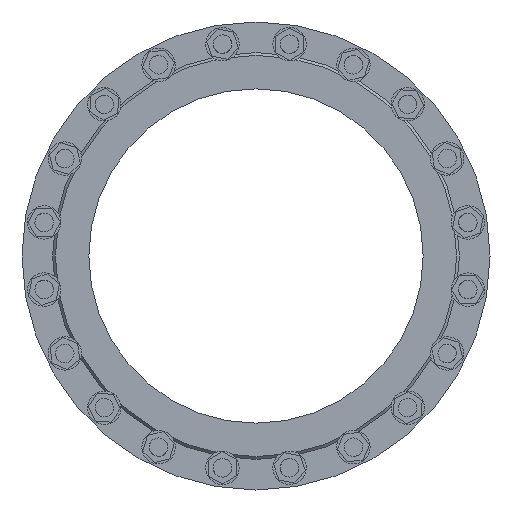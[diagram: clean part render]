
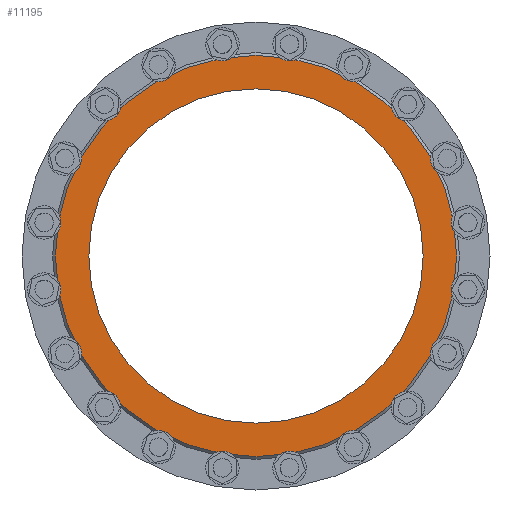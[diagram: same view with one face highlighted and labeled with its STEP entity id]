
A CAD part, left-side view. The second image highlights one B-rep face of the part: STEP entity #11195.
In plain terms, the highlighted planar face has unit normal (-1, 0, 0).
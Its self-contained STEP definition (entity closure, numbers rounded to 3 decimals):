
#1009 = DIRECTION ( 'NONE',  ( 1., 0., 0. ) ) ;
#1361 = AXIS2_PLACEMENT_3D ( 'NONE', #4026, #13915, #1514 ) ;
#1514 = DIRECTION ( 'NONE',  ( 0., 0., 1. ) ) ;
#2507 = PLANE ( 'NONE',  #11328 ) ;
#4026 = CARTESIAN_POINT ( 'NONE',  ( -20., 0., 0. ) ) ;
#5017 = CARTESIAN_POINT ( 'NONE',  ( -20., 300., 0. ) ) ;
#6757 = CARTESIAN_POINT ( 'NONE',  ( -20., 0., 360. ) ) ;
#6993 = CARTESIAN_POINT ( 'NONE',  ( -20., 0., -300. ) ) ;
#7144 = ORIENTED_EDGE ( 'NONE', *, *, #13779, .T. ) ;
#8267 = EDGE_LOOP ( 'NONE', ( #15165 ) ) ;
#9514 = VERTEX_POINT ( 'NONE', #6993 ) ;
#11195 = ADVANCED_FACE ( 'NONE', ( #29027, #24010 ), #2507, .F. ) ;
#11328 = AXIS2_PLACEMENT_3D ( 'NONE', #5017, #21647, #28875 ) ;
#13251 = CARTESIAN_POINT ( 'NONE',  ( -20., 0., 0. ) ) ;
#13779 = EDGE_CURVE ( 'NONE', #24026, #24026, #29931, .T. ) ;
#13915 = DIRECTION ( 'NONE',  ( -1., 0., 0. ) ) ;
#15165 = ORIENTED_EDGE ( 'NONE', *, *, #21729, .T. ) ;
#17117 = AXIS2_PLACEMENT_3D ( 'NONE', #13251, #1009, #17664 ) ;
#17664 = DIRECTION ( 'NONE',  ( 0., 0., -1. ) ) ;
#21647 = DIRECTION ( 'NONE',  ( 1., 0., 0. ) ) ;
#21729 = EDGE_CURVE ( 'NONE', #9514, #9514, #25147, .T. ) ;
#22495 = EDGE_LOOP ( 'NONE', ( #7144 ) ) ;
#24010 = FACE_OUTER_BOUND ( 'NONE', #22495, .T. ) ;
#24026 = VERTEX_POINT ( 'NONE', #6757 ) ;
#25147 = CIRCLE ( 'NONE', #17117, 300. ) ;
#28875 = DIRECTION ( 'NONE',  ( 0., 0., -1. ) ) ;
#29027 = FACE_BOUND ( 'NONE', #8267, .T. ) ;
#29931 = CIRCLE ( 'NONE', #1361, 360. ) ;
